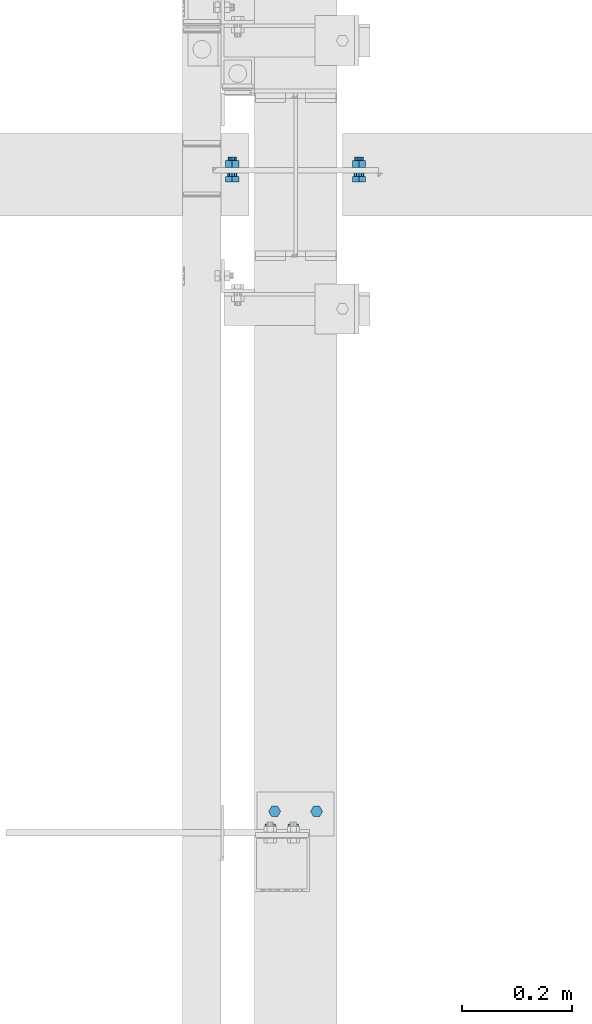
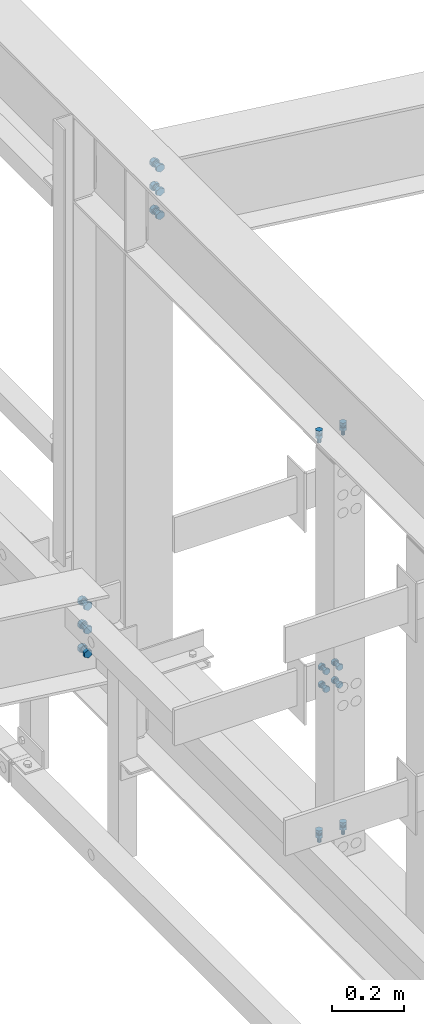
# One storey, part 147 of 3134: 5 mechanical fasteners, 5 elements without a shape of their own.
"""IFC2X3 building model written with IfcOpenShell, lengths in millimetres."""

from ifc_helpers import new_model, si_unit, frame, origin_with_axes, place, context, subcontext, project, spatial, faceted_brep, source, transform, mapped, material, type_object, element, aggregate, save


model = new_model("IFC2X3")

# Units and contexts
model_context = context("Model", 3, precision=1e-05, world=origin_with_axes())
body_context = subcontext(model_context, "Body", "Model", "MODEL_VIEW")
ifc_project = project(units=[si_unit("LENGTHUNIT", "METRE", prefix="MILLI"), si_unit("AREAUNIT", "SQUARE_METRE"), si_unit("VOLUMEUNIT", "CUBIC_METRE"), si_unit("MASSUNIT", "GRAM", prefix="KILO"), si_unit("TIMEUNIT", "SECOND"), si_unit("PLANEANGLEUNIT", "RADIAN"), si_unit("SOLIDANGLEUNIT", "STERADIAN"), si_unit("THERMODYNAMICTEMPERATUREUNIT", "DEGREE_CELSIUS"), si_unit("LUMINOUSINTENSITYUNIT", "LUMEN")], contexts=[model_context])

# Site, building, storey
site_placement = place(None, origin_with_axes())
site = spatial("IfcSite", under=ifc_project, at=site_placement, CompositionType="ELEMENT")
building_placement = place(site_placement, origin_with_axes())
building = spatial("IfcBuilding", under=site, at=building_placement, Name="Undefined", CompositionType="ELEMENT")
storey_placement = place(building_placement, origin_with_axes())
storey = spatial("IfcBuildingStorey", under=building, at=storey_placement, Name="Undefined", CompositionType="ELEMENT", Elevation=0.0)

# Assembly, mechanical fastener
assembly_1_placement = place(storey_placement, origin_with_axes())
assembly_1 = element("IfcElementAssembly", 1, at=assembly_1_placement, inside=storey, AssemblyPlace="NOTDEFINED", PredefinedType="RIGID_FRAME")
ifc_material = material(Name="8.8")
mechanical_fastener_type = type_object("IfcMechanicalFastenerType", Name="Bolt assembly")
shared_shape_1 = source(origin_with_axes(), body_context, "Body", "Brep", [
    faceted_brep([(10.9696551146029, -8.0, 0.0), (5.48482755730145, -8.0, 9.5), (-5.48482755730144, -8.0, 9.5), (-10.9696551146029, -8.0, 1.34339530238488e-15), (-5.48482755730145, -8.0, -9.5), (5.48482755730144, -8.0, -9.50000000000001), (5.48482755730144, 0.0, -9.50000000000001), (-5.48482755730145, 0.0, -9.5), (-10.9696551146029, 0.0, 1.34339530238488e-15), (-5.48482755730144, 0.0, 9.5), (5.48482755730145, 0.0, 9.5), (10.9696551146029, 0.0, 0.0), (6.0, 0.0, 0.0), (5.19615242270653, 0.0, 3.00000000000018), (2.99999999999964, 0.0, 5.19615242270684), (-6.21801588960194e-13, 0.0, 6.0), (-3.00000000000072, 0.0, 5.19615242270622), (-5.19615242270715, 0.0, 2.9999999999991), (-6.0, 0.0, -1.24360317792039e-12), (-5.19615242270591, 0.0, -3.00000000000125), (-2.99999999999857, 0.0, -5.19615242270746), (1.85874342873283e-12, 0.0, -6.0), (3.00000000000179, 0.0, -5.1961524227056), (5.19615242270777, 0.0, -2.99999999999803), (5.19615242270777, 35.0, -2.99999999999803), (3.00000000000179, 35.0, -5.1961524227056), (1.85874342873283e-12, 35.0, -6.0), (-2.99999999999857, 35.0, -5.19615242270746), (-5.19615242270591, 35.0, -3.00000000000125), (-6.0, 35.0, -1.24360317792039e-12), (-5.19615242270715, 35.0, 2.9999999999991), (-3.00000000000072, 35.0, 5.19615242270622), (-6.21801588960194e-13, 35.0, 6.0), (2.99999999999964, 35.0, 5.19615242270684), (5.19615242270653, 35.0, 3.00000000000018), (6.0, 35.0, 0.0), (10.9696551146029, 8.0, 0.0), (5.48482755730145, 8.0, 9.5), (-5.48482755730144, 8.0, 9.5), (-10.9696551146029, 8.0, 1.34339530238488e-15), (-5.48482755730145, 8.0, -9.5), (5.48482755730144, 8.0, -9.50000000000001), (5.48482755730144, 18.0, -9.50000000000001), (-5.48482755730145, 18.0, -9.5), (-10.9696551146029, 18.0, 1.34339530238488e-15), (-5.48482755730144, 18.0, 9.5), (5.48482755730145, 18.0, 9.5), (10.9696551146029, 18.0, 0.0)], [[[0, 1, 2, 3, 4, 5]], [[6, 7, 8, 9, 10, 11]], [[0, 11, 10, 1]], [[1, 10, 9, 2]], [[2, 9, 8, 3]], [[3, 8, 7, 4]], [[4, 7, 6, 5]], [[5, 6, 11, 0]], [[12, 13, 14, 15, 16, 17, 18, 19, 20, 21, 22, 23]], [[24, 25, 26, 27, 28, 29, 30, 31, 32, 33, 34, 35]], [[12, 35, 34, 13]], [[13, 34, 33, 14]], [[14, 33, 32, 15]], [[15, 32, 31, 16]], [[16, 31, 30, 17]], [[17, 30, 29, 18]], [[18, 29, 28, 19]], [[19, 28, 27, 20]], [[20, 27, 26, 21]], [[21, 26, 25, 22]], [[22, 25, 24, 23]], [[23, 24, 35, 12]], [[36, 37, 38, 39, 40, 41]], [[42, 43, 44, 45, 46, 47]], [[36, 47, 46, 37]], [[37, 46, 45, 38]], [[38, 45, 44, 39]], [[39, 44, 43, 40]], [[40, 43, 42, 41]], [[41, 42, 47, 36]]]),
    faceted_brep([(7.0, 0.0, 0.0), (6.06217782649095, 0.0, 3.50000000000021), (3.49999999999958, 0.0, 6.06217782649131), (-7.25435187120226e-13, 0.0, 7.0), (-3.50000000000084, 0.0, 6.06217782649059), (-6.06217782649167, 0.0, 3.49999999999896), (-7.0, 0.0, -1.45087037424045e-12), (-6.06217782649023, 0.0, -3.50000000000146), (-3.49999999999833, 0.0, -6.06217782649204), (2.1685340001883e-12, 0.0, -7.0), (3.50000000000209, 0.0, -6.06217782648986), (6.0621778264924, 0.0, -3.4999999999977), (6.0621778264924, 8.1, -3.4999999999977), (3.50000000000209, 8.1, -6.06217782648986), (2.1685340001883e-12, 8.1, -7.0), (-3.49999999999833, 8.1, -6.06217782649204), (-6.06217782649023, 8.1, -3.50000000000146), (-7.0, 8.1, -1.45087037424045e-12), (-6.06217782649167, 8.1, 3.49999999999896), (-3.50000000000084, 8.1, 6.06217782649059), (-7.25435187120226e-13, 8.1, 7.0), (3.49999999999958, 8.1, 6.06217782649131), (6.06217782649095, 8.1, 3.50000000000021), (7.0, 8.1, 0.0)], [[[0, 1, 2, 3, 4, 5, 6, 7, 8, 9, 10, 11]], [[12, 13, 14, 15, 16, 17, 18, 19, 20, 21, 22, 23]], [[0, 23, 22, 1]], [[1, 22, 21, 2]], [[2, 21, 20, 3]], [[3, 20, 19, 4]], [[4, 19, 18, 5]], [[5, 18, 17, 6]], [[6, 17, 16, 7]], [[7, 16, 15, 8]], [[8, 15, 14, 9]], [[9, 14, 13, 10]], [[10, 13, 12, 11]], [[11, 12, 23, 0]]]),
])
mechanical_fastener_1_placement = place(assembly_1_placement, frame((44162.0, 26095.0, 5593.0), z_axis=(0.0, 1.0, 0.0), x_axis=(1.0, 0.0, 0.0)))
mechanical_fastener_1 = element("IfcMechanicalFastener", 2, at=mechanical_fastener_1_placement, type_object=mechanical_fastener_type, material=ifc_material, Name="Bolt assembly", NominalDiameter=12.0, NominalLength=35.0, context=body_context, shape_type="MappedRepresentation", body=[
    mapped(shared_shape_1, transform((0.0, 0.0, 0.0))),
    mapped(shared_shape_1, transform((76.0, 0.0, 0.0))),
])
aggregate(assembly_1, [mechanical_fastener_1])

assembly_2_placement = place(storey_placement, origin_with_axes())
assembly_2 = element("IfcElementAssembly", 3, at=assembly_2_placement, inside=storey, AssemblyPlace="NOTDEFINED", PredefinedType="RIGID_FRAME")
shared_shape_2 = source(origin_with_axes(), body_context, "Body", "Brep", [
    faceted_brep([(10.9696551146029, -12.0, 0.0), (5.48482755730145, -12.0, 9.5), (-5.48482755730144, -12.0, 9.5), (-10.9696551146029, -12.0, 1.34339530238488e-15), (-5.48482755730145, -12.0, -9.5), (5.48482755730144, -12.0, -9.50000000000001), (5.48482755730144, -4.0, -9.50000000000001), (-5.48482755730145, -4.0, -9.5), (-10.9696551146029, -4.0, 1.34339530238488e-15), (-5.48482755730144, -4.0, 9.5), (5.48482755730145, -4.0, 9.5), (10.9696551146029, -4.0, 0.0), (6.0, -4.0, 0.0), (5.19615242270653, -4.0, 3.00000000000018), (2.99999999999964, -4.0, 5.19615242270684), (-6.21801588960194e-13, -4.0, 6.0), (-3.00000000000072, -4.0, 5.19615242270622), (-5.19615242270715, -4.0, 2.9999999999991), (-6.0, -4.0, -1.24360317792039e-12), (-5.19615242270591, -4.0, -3.00000000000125), (-2.99999999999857, -4.0, -5.19615242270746), (1.85874342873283e-12, -4.0, -6.0), (3.00000000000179, -4.0, -5.1961524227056), (5.19615242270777, -4.0, -2.99999999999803), (5.19615242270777, 26.0, -2.99999999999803), (3.00000000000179, 26.0, -5.1961524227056), (1.85874342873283e-12, 26.0, -6.0), (-2.99999999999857, 26.0, -5.19615242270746), (-5.19615242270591, 26.0, -3.00000000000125), (-6.0, 26.0, -1.24360317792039e-12), (-5.19615242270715, 26.0, 2.9999999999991), (-3.00000000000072, 26.0, 5.19615242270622), (-6.21801588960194e-13, 26.0, 6.0), (2.99999999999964, 26.0, 5.19615242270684), (5.19615242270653, 26.0, 3.00000000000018), (6.0, 26.0, 0.0), (10.9696551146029, 12.0, 0.0), (5.48482755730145, 12.0, 9.5), (-5.48482755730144, 12.0, 9.5), (-10.9696551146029, 12.0, 1.34339530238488e-15), (-5.48482755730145, 12.0, -9.5), (5.48482755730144, 12.0, -9.50000000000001), (5.48482755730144, 22.0, -9.50000000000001), (-5.48482755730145, 22.0, -9.5), (-10.9696551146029, 22.0, 1.34339530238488e-15), (-5.48482755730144, 22.0, 9.5), (5.48482755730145, 22.0, 9.5), (10.9696551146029, 22.0, 0.0)], [[[0, 1, 2, 3, 4, 5]], [[6, 7, 8, 9, 10, 11]], [[0, 11, 10, 1]], [[1, 10, 9, 2]], [[2, 9, 8, 3]], [[3, 8, 7, 4]], [[4, 7, 6, 5]], [[5, 6, 11, 0]], [[12, 13, 14, 15, 16, 17, 18, 19, 20, 21, 22, 23]], [[24, 25, 26, 27, 28, 29, 30, 31, 32, 33, 34, 35]], [[12, 35, 34, 13]], [[13, 34, 33, 14]], [[14, 33, 32, 15]], [[15, 32, 31, 16]], [[16, 31, 30, 17]], [[17, 30, 29, 18]], [[18, 29, 28, 19]], [[19, 28, 27, 20]], [[20, 27, 26, 21]], [[21, 26, 25, 22]], [[22, 25, 24, 23]], [[23, 24, 35, 12]], [[36, 37, 38, 39, 40, 41]], [[42, 43, 44, 45, 46, 47]], [[36, 47, 46, 37]], [[37, 46, 45, 38]], [[38, 45, 44, 39]], [[39, 44, 43, 40]], [[40, 43, 42, 41]], [[41, 42, 47, 36]]]),
    faceted_brep([(7.0, -0.1, 0.0), (6.06217782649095, -0.1, 3.50000000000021), (3.49999999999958, -0.1, 6.06217782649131), (-7.25435187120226e-13, -0.1, 7.0), (-3.50000000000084, -0.1, 6.06217782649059), (-6.06217782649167, -0.1, 3.49999999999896), (-7.0, -0.1, -1.45087037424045e-12), (-6.06217782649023, -0.1, -3.50000000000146), (-3.49999999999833, -0.1, -6.06217782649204), (2.1685340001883e-12, -0.1, -7.0), (3.50000000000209, -0.1, -6.06217782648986), (6.0621778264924, -0.1, -3.4999999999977), (6.0621778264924, 12.0, -3.4999999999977), (3.50000000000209, 12.0, -6.06217782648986), (2.1685340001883e-12, 12.0, -7.0), (-3.49999999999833, 12.0, -6.06217782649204), (-6.06217782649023, 12.0, -3.50000000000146), (-7.0, 12.0, -1.45087037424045e-12), (-6.06217782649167, 12.0, 3.49999999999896), (-3.50000000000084, 12.0, 6.06217782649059), (-7.25435187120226e-13, 12.0, 7.0), (3.49999999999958, 12.0, 6.06217782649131), (6.06217782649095, 12.0, 3.50000000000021), (7.0, 12.0, 0.0), (7.0, -3.9, 0.0), (6.06217782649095, -3.9, 3.50000000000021), (3.49999999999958, -3.9, 6.06217782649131), (-7.25435187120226e-13, -3.9, 7.0), (-3.50000000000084, -3.9, 6.06217782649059), (-6.06217782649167, -3.9, 3.49999999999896), (-7.0, -3.9, -1.45087037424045e-12), (-6.06217782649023, -3.9, -3.50000000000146), (-3.49999999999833, -3.9, -6.06217782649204), (2.1685340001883e-12, -3.9, -7.0), (3.50000000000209, -3.9, -6.06217782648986), (6.0621778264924, -3.9, -3.4999999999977), (6.0621778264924, 0.0999999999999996, -3.4999999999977), (3.50000000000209, 0.0999999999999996, -6.06217782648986), (2.1685340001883e-12, 0.0999999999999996, -7.0), (-3.49999999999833, 0.0999999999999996, -6.06217782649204), (-6.06217782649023, 0.0999999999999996, -3.50000000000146), (-7.0, 0.0999999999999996, -1.45087037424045e-12), (-6.06217782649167, 0.0999999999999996, 3.49999999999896), (-3.50000000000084, 0.0999999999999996, 6.06217782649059), (-7.25435187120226e-13, 0.0999999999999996, 7.0), (3.49999999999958, 0.0999999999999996, 6.06217782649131), (6.06217782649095, 0.0999999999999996, 3.50000000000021), (7.0, 0.0999999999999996, 0.0)], [[[0, 1, 2, 3, 4, 5, 6, 7, 8, 9, 10, 11]], [[12, 13, 14, 15, 16, 17, 18, 19, 20, 21, 22, 23]], [[0, 23, 22, 1]], [[1, 22, 21, 2]], [[2, 21, 20, 3]], [[3, 20, 19, 4]], [[4, 19, 18, 5]], [[5, 18, 17, 6]], [[6, 17, 16, 7]], [[7, 16, 15, 8]], [[8, 15, 14, 9]], [[9, 14, 13, 10]], [[10, 13, 12, 11]], [[11, 12, 23, 0]], [[24, 25, 26, 27, 28, 29, 30, 31, 32, 33, 34, 35]], [[36, 37, 38, 39, 40, 41, 42, 43, 44, 45, 46, 47]], [[24, 47, 46, 25]], [[25, 46, 45, 26]], [[26, 45, 44, 27]], [[27, 44, 43, 28]], [[28, 43, 42, 29]], [[29, 42, 41, 30]], [[30, 41, 40, 31]], [[31, 40, 39, 32]], [[32, 39, 38, 33]], [[33, 38, 37, 34]], [[34, 37, 36, 35]], [[35, 36, 47, 24]]]),
])
mechanical_fastener_2_placement = place(assembly_2_placement, frame((44175.0, 26050.0, 4820.0), z_axis=(1.0, 0.0, 0.0), x_axis=(0.0, 0.0, -1.0)))
mechanical_fastener_2 = element("IfcMechanicalFastener", 4, at=mechanical_fastener_2_placement, type_object=mechanical_fastener_type, material=ifc_material, Name="Bolt assembly", NominalDiameter=12.0, NominalLength=30.0, context=body_context, shape_type="MappedRepresentation", body=[
    mapped(shared_shape_2, transform((0.0, 0.0, -21.0))),
    mapped(shared_shape_2, transform((60.0, 0.0, -21.0))),
    mapped(shared_shape_2, transform((0.0, 0.0, 21.0))),
    mapped(shared_shape_2, transform((60.0, 0.0, 21.0))),
])
aggregate(assembly_2, [mechanical_fastener_2])

assembly_3_placement = place(storey_placement, origin_with_axes())
assembly_3 = element("IfcElementAssembly", 5, at=assembly_3_placement, inside=storey, AssemblyPlace="NOTDEFINED", PredefinedType="RIGID_FRAME")
shared_shape_3 = source(origin_with_axes(), body_context, "Body", "Brep", [
    faceted_brep([(10.9696551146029, -16.0, 0.0), (5.48482755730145, -16.0, 9.5), (-5.48482755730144, -16.0, 9.5), (-10.9696551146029, -16.0, 1.34339530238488e-15), (-5.48482755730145, -16.0, -9.5), (5.48482755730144, -16.0, -9.50000000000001), (5.48482755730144, -8.0, -9.50000000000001), (-5.48482755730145, -8.0, -9.5), (-10.9696551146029, -8.0, 1.34339530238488e-15), (-5.48482755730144, -8.0, 9.5), (5.48482755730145, -8.0, 9.5), (10.9696551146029, -8.0, 0.0), (6.0, -8.0, 0.0), (5.19615242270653, -8.0, 3.00000000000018), (2.99999999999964, -8.0, 5.19615242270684), (-6.21801588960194e-13, -8.0, 6.0), (-3.00000000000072, -8.0, 5.19615242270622), (-5.19615242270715, -8.0, 2.9999999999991), (-6.0, -8.0, -1.24360317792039e-12), (-5.19615242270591, -8.0, -3.00000000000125), (-2.99999999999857, -8.0, -5.19615242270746), (1.85874342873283e-12, -8.0, -6.0), (3.00000000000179, -8.0, -5.1961524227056), (5.19615242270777, -8.0, -2.99999999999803), (5.19615242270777, 27.0, -2.99999999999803), (3.00000000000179, 27.0, -5.1961524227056), (1.85874342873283e-12, 27.0, -6.0), (-2.99999999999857, 27.0, -5.19615242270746), (-5.19615242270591, 27.0, -3.00000000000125), (-6.0, 27.0, -1.24360317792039e-12), (-5.19615242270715, 27.0, 2.9999999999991), (-3.00000000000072, 27.0, 5.19615242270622), (-6.21801588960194e-13, 27.0, 6.0), (2.99999999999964, 27.0, 5.19615242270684), (5.19615242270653, 27.0, 3.00000000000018), (6.0, 27.0, 0.0), (10.9696551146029, 0.0, 0.0), (5.48482755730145, 0.0, 9.5), (-5.48482755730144, 0.0, 9.5), (-10.9696551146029, 0.0, 1.34339530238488e-15), (-5.48482755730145, 0.0, -9.5), (5.48482755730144, 0.0, -9.50000000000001), (5.48482755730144, 10.0, -9.50000000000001), (-5.48482755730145, 10.0, -9.5), (-10.9696551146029, 10.0, 1.34339530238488e-15), (-5.48482755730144, 10.0, 9.5), (5.48482755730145, 10.0, 9.5), (10.9696551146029, 10.0, 0.0)], [[[0, 1, 2, 3, 4, 5]], [[6, 7, 8, 9, 10, 11]], [[0, 11, 10, 1]], [[1, 10, 9, 2]], [[2, 9, 8, 3]], [[3, 8, 7, 4]], [[4, 7, 6, 5]], [[5, 6, 11, 0]], [[12, 13, 14, 15, 16, 17, 18, 19, 20, 21, 22, 23]], [[24, 25, 26, 27, 28, 29, 30, 31, 32, 33, 34, 35]], [[12, 35, 34, 13]], [[13, 34, 33, 14]], [[14, 33, 32, 15]], [[15, 32, 31, 16]], [[16, 31, 30, 17]], [[17, 30, 29, 18]], [[18, 29, 28, 19]], [[19, 28, 27, 20]], [[20, 27, 26, 21]], [[21, 26, 25, 22]], [[22, 25, 24, 23]], [[23, 24, 35, 12]], [[36, 37, 38, 39, 40, 41]], [[42, 43, 44, 45, 46, 47]], [[36, 47, 46, 37]], [[37, 46, 45, 38]], [[38, 45, 44, 39]], [[39, 44, 43, 40]], [[40, 43, 42, 41]], [[41, 42, 47, 36]]]),
    faceted_brep([(7.0, -8.0, 0.0), (6.06217782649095, -8.0, 3.50000000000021), (3.49999999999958, -8.0, 6.06217782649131), (-7.25435187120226e-13, -8.0, 7.0), (-3.50000000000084, -8.0, 6.06217782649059), (-6.06217782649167, -8.0, 3.49999999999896), (-7.0, -8.0, -1.45087037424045e-12), (-6.06217782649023, -8.0, -3.50000000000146), (-3.49999999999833, -8.0, -6.06217782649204), (2.1685340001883e-12, -8.0, -7.0), (3.50000000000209, -8.0, -6.06217782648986), (6.0621778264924, -8.0, -3.4999999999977), (6.0621778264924, 0.0999999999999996, -3.4999999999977), (3.50000000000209, 0.0999999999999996, -6.06217782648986), (2.1685340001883e-12, 0.0999999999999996, -7.0), (-3.49999999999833, 0.0999999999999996, -6.06217782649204), (-6.06217782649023, 0.0999999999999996, -3.50000000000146), (-7.0, 0.0999999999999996, -1.45087037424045e-12), (-6.06217782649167, 0.0999999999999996, 3.49999999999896), (-3.50000000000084, 0.0999999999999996, 6.06217782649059), (-7.25435187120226e-13, 0.0999999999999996, 7.0), (3.49999999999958, 0.0999999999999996, 6.06217782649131), (6.06217782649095, 0.0999999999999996, 3.50000000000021), (7.0, 0.0999999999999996, 0.0)], [[[0, 1, 2, 3, 4, 5, 6, 7, 8, 9, 10, 11]], [[12, 13, 14, 15, 16, 17, 18, 19, 20, 21, 22, 23]], [[0, 23, 22, 1]], [[1, 22, 21, 2]], [[2, 21, 20, 3]], [[3, 20, 19, 4]], [[4, 19, 18, 5]], [[5, 18, 17, 6]], [[6, 17, 16, 7]], [[7, 16, 15, 8]], [[8, 15, 14, 9]], [[9, 14, 13, 10]], [[10, 13, 12, 11]], [[11, 12, 23, 0]]]),
])
mechanical_fastener_3_placement = place(assembly_3_placement, frame((44162.0, 26095.0, 4237.0), z_axis=(0.0, 1.0, 0.0), x_axis=(1.0, 0.0, 0.0)))
mechanical_fastener_3 = element("IfcMechanicalFastener", 6, at=mechanical_fastener_3_placement, type_object=mechanical_fastener_type, material=ifc_material, Name="Bolt assembly", NominalDiameter=12.0, NominalLength=35.0, context=body_context, shape_type="MappedRepresentation", body=[
    mapped(shared_shape_3, transform((0.0, 0.0, 0.0))),
    mapped(shared_shape_3, transform((76.0, 0.0, 0.0))),
])
aggregate(assembly_3, [mechanical_fastener_3])

assembly_4_placement = place(storey_placement, origin_with_axes())
assembly_4 = element("IfcElementAssembly", 7, at=assembly_4_placement, inside=storey, Name="300", AssemblyPlace="NOTDEFINED", PredefinedType="RIGID_FRAME")
shared_shape_4 = source(origin_with_axes(), body_context, "Body", "Brep", [
    faceted_brep([(13.856406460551, -13.0499999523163, 0.0), (6.92820323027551, -13.0499999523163, 12.0), (-6.92820323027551, -13.0499999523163, 12.0), (-13.856406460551, -13.0499999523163, 1.69692038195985e-15), (-6.92820323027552, -13.0499999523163, -12.0), (6.9282032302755, -13.0499999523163, -12.0), (6.9282032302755, -3.04999995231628, -12.0), (-6.92820323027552, -3.04999995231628, -12.0), (-13.856406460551, -3.04999995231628, 1.69692038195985e-15), (-6.92820323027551, -3.04999995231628, 12.0), (6.92820323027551, -3.04999995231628, 12.0), (13.856406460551, -3.04999995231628, 0.0), (8.0, -3.04999995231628, 0.0), (6.92820323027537, -3.04999995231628, 4.00000000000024), (3.99999999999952, -3.04999995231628, 6.92820323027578), (-8.29068785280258e-13, -3.04999995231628, 8.0), (-4.00000000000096, -3.04999995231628, 6.92820323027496), (-6.9282032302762, -3.04999995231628, 3.99999999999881), (-8.0, -3.04999995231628, -1.65813757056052e-12), (-6.92820323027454, -3.04999995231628, -4.00000000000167), (-3.99999999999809, -3.04999995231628, -6.92820323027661), (2.47832457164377e-12, -3.04999995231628, -8.0), (4.00000000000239, -3.04999995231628, -6.92820323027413), (6.92820323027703, -3.04999995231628, -3.99999999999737), (6.92820323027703, 31.9500000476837, -3.99999999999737), (4.00000000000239, 31.9500000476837, -6.92820323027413), (2.47832457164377e-12, 31.9500000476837, -8.0), (-3.99999999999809, 31.9500000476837, -6.92820323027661), (-6.92820323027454, 31.9500000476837, -4.00000000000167), (-8.0, 31.9500000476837, -1.65813757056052e-12), (-6.9282032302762, 31.9500000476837, 3.99999999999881), (-4.00000000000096, 31.9500000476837, 6.92820323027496), (-8.29068785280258e-13, 31.9500000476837, 8.0), (3.99999999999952, 31.9500000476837, 6.92820323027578), (6.92820323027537, 31.9500000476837, 4.00000000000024), (8.0, 31.9500000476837, 0.0), (13.856406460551, 13.0500000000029, 0.0), (6.92820323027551, 13.0500000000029, 12.0), (-6.92820323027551, 13.0500000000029, 12.0), (-13.856406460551, 13.0500000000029, 1.69692038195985e-15), (-6.92820323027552, 13.0500000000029, -12.0), (6.9282032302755, 13.0500000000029, -12.0), (6.9282032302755, 26.0500000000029, -12.0), (-6.92820323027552, 26.0500000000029, -12.0), (-13.856406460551, 26.0500000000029, 1.69692038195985e-15), (-6.92820323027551, 26.0500000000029, 12.0), (6.92820323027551, 26.0500000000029, 12.0), (13.856406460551, 26.0500000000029, 0.0)], [[[0, 1, 2, 3, 4, 5]], [[6, 7, 8, 9, 10, 11]], [[0, 11, 10, 1]], [[1, 10, 9, 2]], [[2, 9, 8, 3]], [[3, 8, 7, 4]], [[4, 7, 6, 5]], [[5, 6, 11, 0]], [[12, 13, 14, 15, 16, 17, 18, 19, 20, 21, 22, 23]], [[24, 25, 26, 27, 28, 29, 30, 31, 32, 33, 34, 35]], [[12, 35, 34, 13]], [[13, 34, 33, 14]], [[14, 33, 32, 15]], [[15, 32, 31, 16]], [[16, 31, 30, 17]], [[17, 30, 29, 18]], [[18, 29, 28, 19]], [[19, 28, 27, 20]], [[20, 27, 26, 21]], [[21, 26, 25, 22]], [[22, 25, 24, 23]], [[23, 24, 35, 12]], [[36, 37, 38, 39, 40, 41]], [[42, 43, 44, 45, 46, 47]], [[36, 47, 46, 37]], [[37, 46, 45, 38]], [[38, 45, 44, 39]], [[39, 44, 43, 40]], [[40, 43, 42, 41]], [[41, 42, 47, 36]]]),
    faceted_brep([(9.0, 2.95000000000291, 0.0), (7.79422863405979, 2.95000000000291, 4.50000000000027), (4.49999999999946, 2.95000000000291, 7.79422863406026), (-9.3270238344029e-13, 2.95000000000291, 9.0), (-4.50000000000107, 2.95000000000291, 7.79422863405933), (-7.79422863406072, 2.95000000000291, 4.49999999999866), (-9.0, 2.95000000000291, -1.86540476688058e-12), (-7.79422863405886, 2.95000000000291, -4.50000000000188), (-4.49999999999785, 2.95000000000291, -7.79422863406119), (2.78811514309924e-12, 2.95000000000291, -9.0), (4.50000000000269, 2.95000000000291, -7.7942286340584), (7.79422863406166, 2.95000000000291, -4.49999999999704), (7.79422863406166, 13.0500000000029, -4.49999999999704), (4.50000000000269, 13.0500000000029, -7.7942286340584), (2.78811514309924e-12, 13.0500000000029, -9.0), (-4.49999999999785, 13.0500000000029, -7.79422863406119), (-7.79422863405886, 13.0500000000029, -4.50000000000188), (-9.0, 13.0500000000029, -1.86540476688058e-12), (-7.79422863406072, 13.0500000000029, 4.49999999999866), (-4.50000000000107, 13.0500000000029, 7.79422863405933), (-9.3270238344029e-13, 13.0500000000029, 9.0), (4.49999999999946, 13.0500000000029, 7.79422863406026), (7.79422863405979, 13.0500000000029, 4.50000000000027), (9.0, 13.0500000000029, 0.0), (9.0, -2.94999995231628, 0.0), (7.79422863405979, -2.94999995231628, 4.50000000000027), (4.49999999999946, -2.94999995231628, 7.79422863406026), (-9.3270238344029e-13, -2.94999995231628, 9.0), (-4.50000000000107, -2.94999995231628, 7.79422863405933), (-7.79422863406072, -2.94999995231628, 4.49999999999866), (-9.0, -2.94999995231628, -1.86540476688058e-12), (-7.79422863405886, -2.94999995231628, -4.50000000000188), (-4.49999999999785, -2.94999995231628, -7.79422863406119), (2.78811514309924e-12, -2.94999995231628, -9.0), (4.50000000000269, -2.94999995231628, -7.7942286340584), (7.79422863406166, -2.94999995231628, -4.49999999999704), (7.79422863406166, 3.14999995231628, -4.49999999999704), (4.50000000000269, 3.14999995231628, -7.7942286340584), (2.78811514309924e-12, 3.14999995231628, -9.0), (-4.49999999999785, 3.14999995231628, -7.79422863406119), (-7.79422863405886, 3.14999995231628, -4.50000000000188), (-9.0, 3.14999995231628, -1.86540476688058e-12), (-7.79422863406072, 3.14999995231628, 4.49999999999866), (-4.50000000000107, 3.14999995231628, 7.79422863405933), (-9.3270238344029e-13, 3.14999995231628, 9.0), (4.49999999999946, 3.14999995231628, 7.79422863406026), (7.79422863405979, 3.14999995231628, 4.50000000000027), (9.0, 3.14999995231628, 0.0)], [[[0, 1, 2, 3, 4, 5, 6, 7, 8, 9, 10, 11]], [[12, 13, 14, 15, 16, 17, 18, 19, 20, 21, 22, 23]], [[0, 23, 22, 1]], [[1, 22, 21, 2]], [[2, 21, 20, 3]], [[3, 20, 19, 4]], [[4, 19, 18, 5]], [[5, 18, 17, 6]], [[6, 17, 16, 7]], [[7, 16, 15, 8]], [[8, 15, 14, 9]], [[9, 14, 13, 10]], [[10, 13, 12, 11]], [[11, 12, 23, 0]], [[24, 25, 26, 27, 28, 29, 30, 31, 32, 33, 34, 35]], [[36, 37, 38, 39, 40, 41, 42, 43, 44, 45, 46, 47]], [[24, 47, 46, 25]], [[25, 46, 45, 26]], [[26, 45, 44, 27]], [[27, 44, 43, 28]], [[28, 43, 42, 29]], [[29, 42, 41, 30]], [[30, 41, 40, 31]], [[31, 40, 39, 32]], [[32, 39, 38, 33]], [[33, 38, 37, 34]], [[34, 37, 36, 35]], [[35, 36, 47, 24]]]),
])
mechanical_fastener_4_placement = place(assembly_4_placement, frame((44085.0, 27250.0, 4337.44269270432), z_axis=(1.0, 0.0, 0.0), x_axis=(0.0, 0.0, -1.0)))
mechanical_fastener_4 = element("IfcMechanicalFastener", 8, at=mechanical_fastener_4_placement, type_object=mechanical_fastener_type, material=ifc_material, Name="Bolt assembly", NominalDiameter=16.0, NominalLength=35.0, context=body_context, shape_type="MappedRepresentation", body=[
    mapped(shared_shape_4, transform((0.0, 0.0, 0.0))),
    mapped(shared_shape_4, transform((80.0, 0.0, 0.0))),
    mapped(shared_shape_4, transform((160.0, 0.0, 0.0))),
])
aggregate(assembly_4, [mechanical_fastener_4])

assembly_5_placement = place(storey_placement, origin_with_axes())
assembly_5 = element("IfcElementAssembly", 9, at=assembly_5_placement, inside=storey, Name="300", AssemblyPlace="NOTDEFINED", PredefinedType="RIGID_FRAME")
mechanical_fastener_5_placement = place(assembly_5_placement, frame((44315.0, 27250.0, 5735.35014950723), z_axis=(1.0, 0.0, 0.0), x_axis=(0.0, 0.0, -1.0)))
mechanical_fastener_5 = element("IfcMechanicalFastener", 10, at=mechanical_fastener_5_placement, type_object=mechanical_fastener_type, material=ifc_material, Name="Bolt assembly", NominalDiameter=16.0, NominalLength=35.0, context=body_context, shape_type="MappedRepresentation", body=[
    mapped(shared_shape_4, transform((0.0, 0.0, 0.0))),
    mapped(shared_shape_4, transform((80.0, 0.0, 0.0))),
    mapped(shared_shape_4, transform((160.0, 0.0, 0.0))),
])
aggregate(assembly_5, [mechanical_fastener_5])

save(model, "model.ifc")
